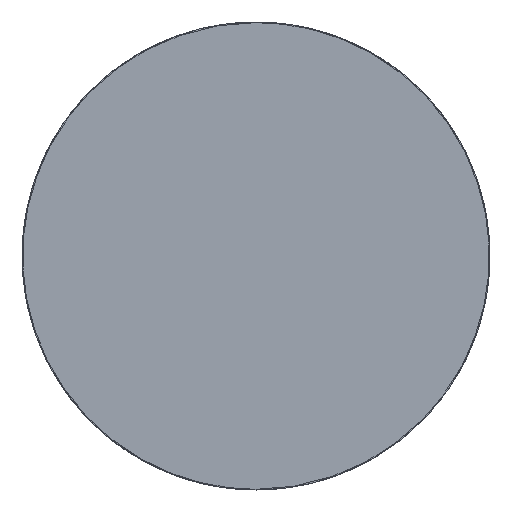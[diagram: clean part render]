
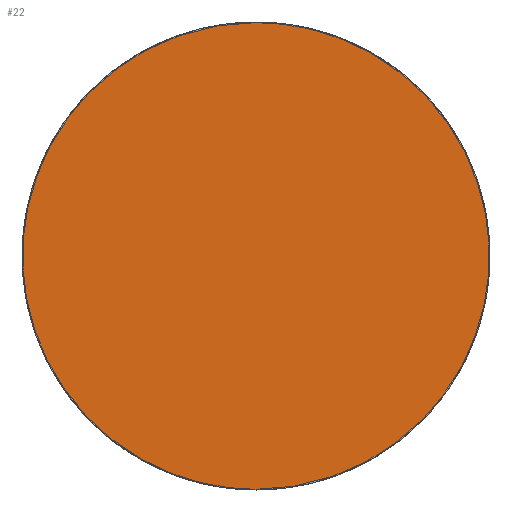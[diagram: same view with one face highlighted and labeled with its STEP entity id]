
A CAD part, top view. The second image highlights one B-rep face of the part: STEP entity #22.
In plain terms, the highlighted planar face has unit normal (0, 0, 1).
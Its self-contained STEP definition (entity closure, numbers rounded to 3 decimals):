
#22=ADVANCED_FACE('',(#126),#1332,.T.);
#126=FACE_OUTER_BOUND('',#230,.T.);
#230=EDGE_LOOP('',(#355,#356));
#355=ORIENTED_EDGE('',*,*,#769,.T.);
#356=ORIENTED_EDGE('',*,*,#974,.T.);
#769=EDGE_CURVE('',#1207,#1314,#1084,.T.);
#974=EDGE_CURVE('',#1314,#1207,#1192,.T.);
#1084=(
BOUNDED_CURVE()
B_SPLINE_CURVE(2,(#4447,#4448,#4449,#4450,#4451),.UNSPECIFIED.,.F.,.F.)
B_SPLINE_CURVE_WITH_KNOTS((3,2,3),(-2192.832,-1644.624,
-1096.416),.UNSPECIFIED.)
CURVE()
GEOMETRIC_REPRESENTATION_ITEM()
RATIONAL_B_SPLINE_CURVE((1.,0.707,1.,0.707,1.))
REPRESENTATION_ITEM('')
);
#1192=(
BOUNDED_CURVE()
B_SPLINE_CURVE(2,(#7247,#7248,#7249,#7250,#7251),.UNSPECIFIED.,.F.,.F.)
B_SPLINE_CURVE_WITH_KNOTS((3,2,3),(-1096.416,-548.208,
0.),.UNSPECIFIED.)
CURVE()
GEOMETRIC_REPRESENTATION_ITEM()
RATIONAL_B_SPLINE_CURVE((1.,0.707,1.,0.707,1.))
REPRESENTATION_ITEM('')
);
#1207=VERTEX_POINT('',#4305);
#1314=VERTEX_POINT('',#4412);
#1332=PLANE('',#1439);
#1439=AXIS2_PLACEMENT_3D('',#1573,#1496,$);
#1496=DIRECTION('',(0.,0.,1.));
#1573=CARTESIAN_POINT('',(-3805.188,326.017,740.));
#4305=CARTESIAN_POINT('',(-3449.208,-378.963,740.));
#4412=CARTESIAN_POINT('',(-3449.208,319.037,740.));
#4447=CARTESIAN_POINT('',(-3449.208,-378.963,740.));
#4448=CARTESIAN_POINT('',(-3100.208,-378.963,740.));
#4449=CARTESIAN_POINT('',(-3100.208,-29.963,740.));
#4450=CARTESIAN_POINT('',(-3100.208,319.037,740.));
#4451=CARTESIAN_POINT('',(-3449.208,319.037,740.));
#7247=CARTESIAN_POINT('',(-3449.208,319.037,740.));
#7248=CARTESIAN_POINT('',(-3798.208,319.037,740.));
#7249=CARTESIAN_POINT('',(-3798.208,-29.963,740.));
#7250=CARTESIAN_POINT('',(-3798.208,-378.963,740.));
#7251=CARTESIAN_POINT('',(-3449.208,-378.963,740.));
